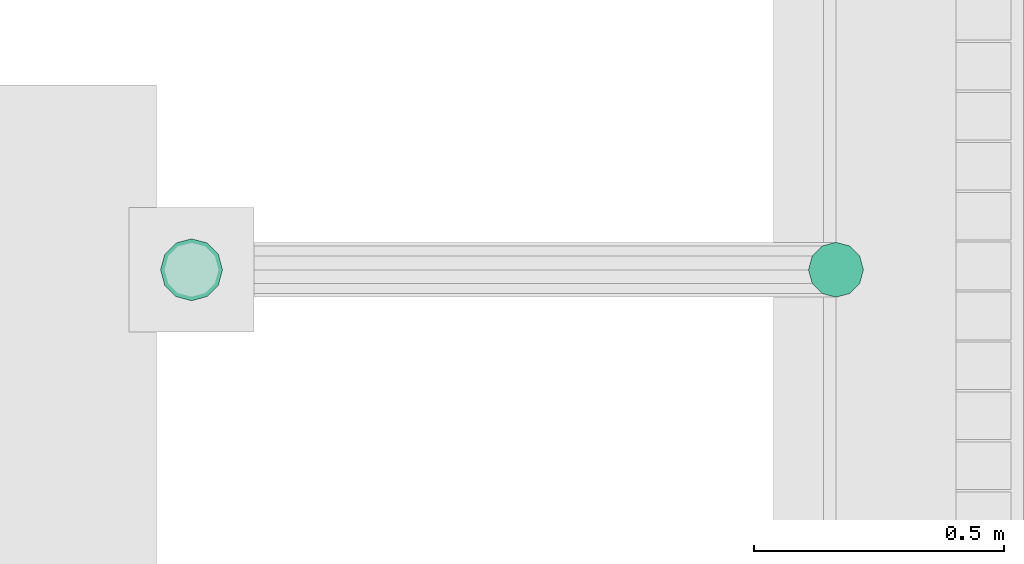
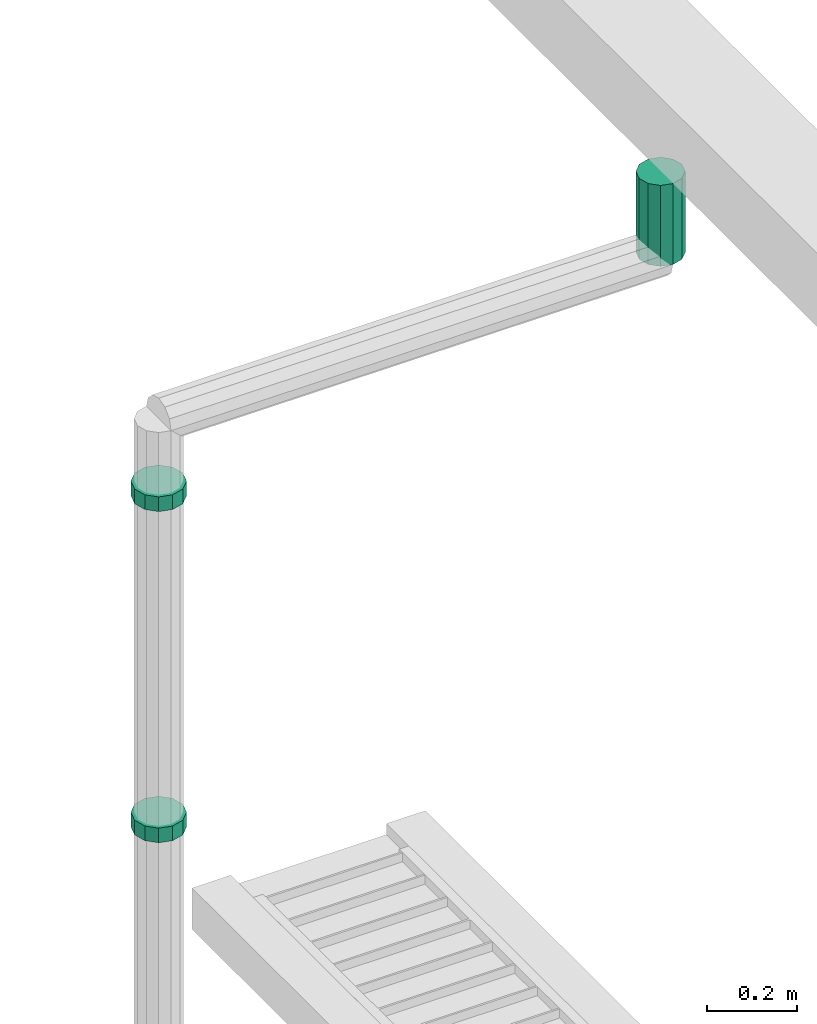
# One storey, part 62 of 90: 3 flow segments.
"""IFC2X3 building model written with IfcOpenShell, lengths in metres."""

from ifc_helpers import new_model, si_unit, origin, origin_with_axes, place, context, subcontext, project, spatial, faceted_brep, element, save


model = new_model("IFC2X3")

# Units and contexts
model_context = context("Model", 3, precision=1e-05, world=origin_with_axes())
body_context = subcontext(model_context, "Body", "Model", "MODEL_VIEW")
ifc_project = project(units=[si_unit("LENGTHUNIT", "METRE"), si_unit("AREAUNIT", "SQUARE_METRE"), si_unit("VOLUMEUNIT", "CUBIC_METRE"), si_unit("PLANEANGLEUNIT", "RADIAN")], contexts=[model_context])

# Site, building, storey
site_placement = place(None, origin_with_axes())
site = spatial("IfcSite", under=ifc_project, at=site_placement, Name="Predio Los Mangos - Morales, San Martín", CompositionType="ELEMENT")
building_placement = place(site_placement, origin())
building = spatial("IfcBuilding", under=site, at=building_placement, Name="Hogar de Refugio Temporal", CompositionType="ELEMENT")
storey_placement = place(building_placement, origin())
storey = spatial("IfcBuildingStorey", under=building, at=storey_placement, Name="NIVEL 1 (NPT +0.00)", CompositionType="ELEMENT", Elevation=0.0)

# Flow segments
flow_segment_1_placement = place(storey_placement, origin())
element("IfcFlowSegment", 1, at=flow_segment_1_placement, inside=storey, Name="montante_boquilla", ObjectType="Montante PVC 4\"", context=body_context, shape_type="Brep", body=[
    faceted_brep([(67.88, 127.505, 3.13), (67.88, 127.505, 2.91), (67.8525, 127.4976, 2.91), (67.8525, 127.4976, 3.13), (67.8324, 127.4775, 2.91), (67.8324, 127.4775, 3.13), (67.825, 127.45, 2.91), (67.825, 127.45, 3.13), (67.8324, 127.4225, 2.91), (67.8324, 127.4225, 3.13), (67.8525, 127.4024, 2.91), (67.8525, 127.4024, 3.13), (67.88, 127.395, 2.91), (67.88, 127.395, 3.13), (67.9075, 127.4024, 2.91), (67.9075, 127.4024, 3.13), (67.9276, 127.4225, 2.91), (67.9276, 127.4225, 3.13), (67.935, 127.45, 2.91), (67.935, 127.45, 3.13), (67.9276, 127.4775, 2.91), (67.9276, 127.4775, 3.13), (67.9075, 127.4976, 2.91), (67.9075, 127.4976, 3.13)], [[[0, 1, 2, 3]], [[3, 2, 4, 5]], [[5, 4, 6, 7]], [[7, 6, 8, 9]], [[9, 8, 10, 11]], [[11, 10, 12, 13]], [[13, 12, 14, 15]], [[15, 14, 16, 17]], [[17, 16, 18, 19]], [[19, 18, 20, 21]], [[2, 1, 22, 20, 18, 16, 14, 12, 10, 8, 6, 4]], [[21, 20, 22, 23]], [[23, 22, 1, 0]], [[0, 3, 5, 7, 9, 11, 13, 15, 17, 19, 21, 23]]]),
])
flow_segment_2_placement = place(storey_placement, origin())
element("IfcFlowSegment", 2, at=flow_segment_2_placement, inside=storey, Name="montante_abrazadera", ObjectType="Montante PVC 4\"", context=body_context, shape_type="Brep", body=[
    faceted_brep([(66.59, 127.388, 1.8), (66.59, 127.388, 1.84), (66.559, 127.3963, 1.84), (66.559, 127.3963, 1.8), (66.5363, 127.419, 1.84), (66.5363, 127.419, 1.8), (66.528, 127.45, 1.84), (66.528, 127.45, 1.8), (66.5363, 127.481, 1.84), (66.5363, 127.481, 1.8), (66.559, 127.5037, 1.84), (66.559, 127.5037, 1.8), (66.59, 127.512, 1.84), (66.59, 127.512, 1.8), (66.621, 127.5037, 1.84), (66.621, 127.5037, 1.8), (66.6437, 127.481, 1.84), (66.6437, 127.481, 1.8), (66.652, 127.45, 1.84), (66.652, 127.45, 1.8), (66.6437, 127.419, 1.84), (66.6437, 127.419, 1.8), (66.621, 127.3963, 1.84), (66.621, 127.3963, 1.8)], [[[0, 1, 2, 3]], [[3, 2, 4, 5]], [[5, 4, 6, 7]], [[7, 6, 8, 9]], [[9, 8, 10, 11]], [[11, 10, 12, 13]], [[13, 12, 14, 15]], [[15, 14, 16, 17]], [[17, 16, 18, 19]], [[19, 18, 20, 21]], [[2, 1, 22, 20, 18, 16, 14, 12, 10, 8, 6, 4]], [[21, 20, 22, 23]], [[23, 22, 1, 0]], [[0, 3, 5, 7, 9, 11, 13, 15, 17, 19, 21, 23]]]),
])
flow_segment_3_placement = place(storey_placement, origin())
element("IfcFlowSegment", 3, at=flow_segment_3_placement, inside=storey, Name="montante_abrazadera", ObjectType="Montante PVC 4\"", context=body_context, shape_type="Brep", body=[
    faceted_brep([(66.59, 127.388, 2.7), (66.59, 127.388, 2.74), (66.559, 127.3963, 2.74), (66.559, 127.3963, 2.7), (66.5363, 127.419, 2.74), (66.5363, 127.419, 2.7), (66.528, 127.45, 2.74), (66.528, 127.45, 2.7), (66.5363, 127.481, 2.74), (66.5363, 127.481, 2.7), (66.559, 127.5037, 2.74), (66.559, 127.5037, 2.7), (66.59, 127.512, 2.74), (66.59, 127.512, 2.7), (66.621, 127.5037, 2.74), (66.621, 127.5037, 2.7), (66.6437, 127.481, 2.74), (66.6437, 127.481, 2.7), (66.652, 127.45, 2.74), (66.652, 127.45, 2.7), (66.6437, 127.419, 2.74), (66.6437, 127.419, 2.7), (66.621, 127.3963, 2.74), (66.621, 127.3963, 2.7)], [[[0, 1, 2, 3]], [[3, 2, 4, 5]], [[5, 4, 6, 7]], [[7, 6, 8, 9]], [[9, 8, 10, 11]], [[11, 10, 12, 13]], [[13, 12, 14, 15]], [[15, 14, 16, 17]], [[17, 16, 18, 19]], [[19, 18, 20, 21]], [[2, 1, 22, 20, 18, 16, 14, 12, 10, 8, 6, 4]], [[21, 20, 22, 23]], [[23, 22, 1, 0]], [[0, 3, 5, 7, 9, 11, 13, 15, 17, 19, 21, 23]]]),
])

save(model, "model.ifc")
